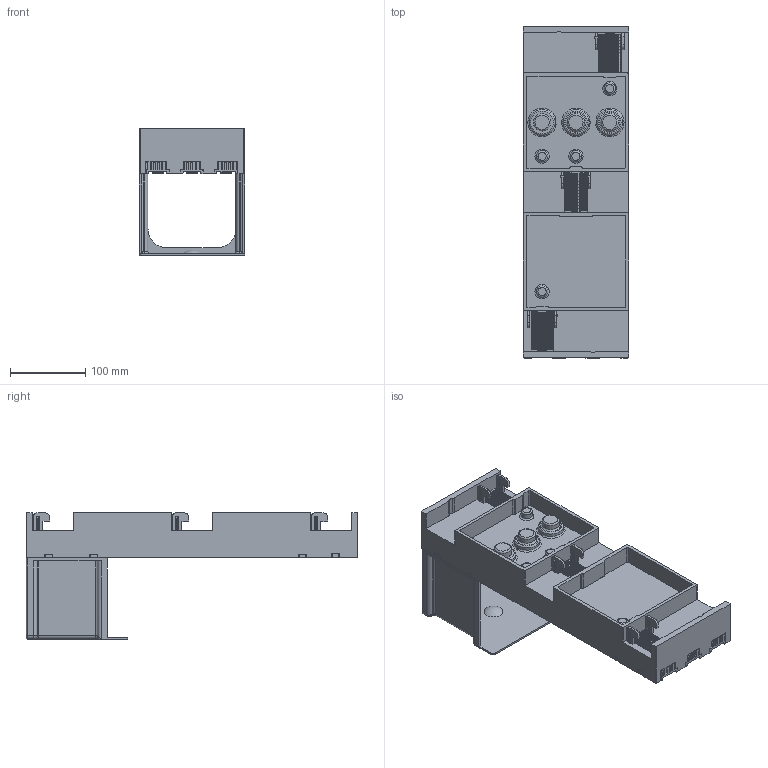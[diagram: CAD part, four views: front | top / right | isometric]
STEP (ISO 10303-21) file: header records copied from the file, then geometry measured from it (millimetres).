
FILE_DESCRIPTION (( 'STEP AP203' ), '1' );
FILE_NAME ('55006.STEP', '2021-09-01T05:30:23', ( '' ), ( '' ), 'SwSTEP 2.0', 'SolidWorks 2017', '' );
FILE_SCHEMA (( 'CONFIG_CONTROL_DESIGN' ));
Length unit declared in the file: millimetre
Products named in the file (2): 55006
Bounding box: 140.2 x 441.5 x 168 mm (x, y, z)
Volume: 2423671.4 mm3; surface area: 371615.2 mm2
Topology: 2 solids, 70 shells, 2419 faces, 6458 edges, 4257 vertices
Faces by surface type: plane 1791, cylinder 386, bspline 176, torus 42, cone 18, sphere 6
Full cylindrical faces by diameter (mm): 3.2 x11, 5.5 x8, 9 x15, 10.5 x1, 11.5 x6, 14 x8, 15 x4, 23 x6, 34 x3
Entity records: 89289 total; most frequent: CARTESIAN_POINT 30807, ORIENTED_EDGE 12580, DIRECTION 10825, EDGE_CURVE 6290, LINE 4961, VECTOR 4961, VERTEX_POINT 4219, AXIS2_PLACEMENT_3D 2932
